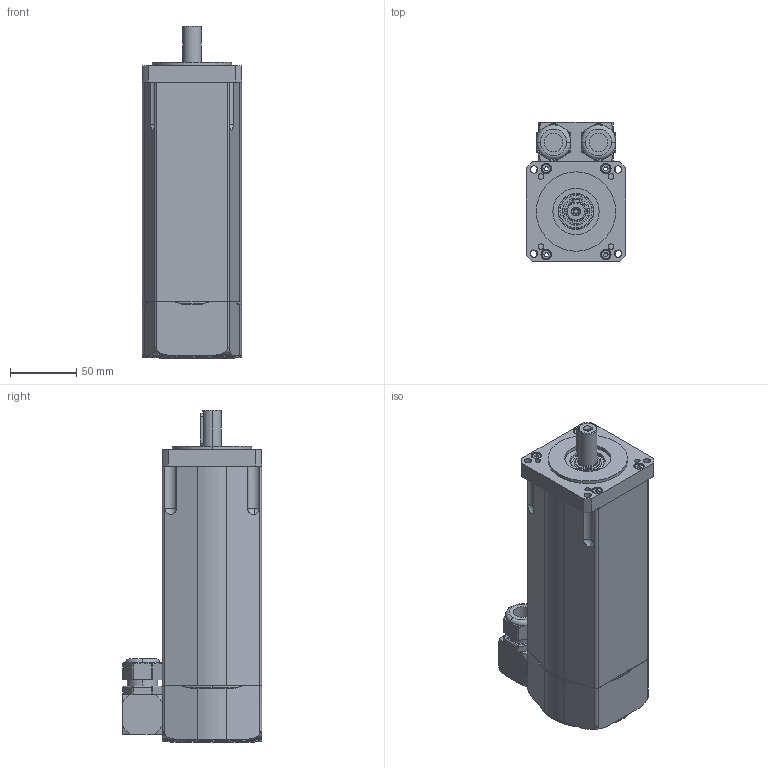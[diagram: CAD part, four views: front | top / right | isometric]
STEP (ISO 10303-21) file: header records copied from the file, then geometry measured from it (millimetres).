
FILE_DESCRIPTION (( 'STEP AP203' ), '1' );
FILE_NAME ('SSAX_75_L_SF_Albero Ø14 .STEP', '2017-06-01T13:25:25', ( 'Tecnico motori' ), ( '' ), 'SwSTEP 2.0', 'SolidWorks 2010', '' );
FILE_SCHEMA (( 'CONFIG_CONTROL_DESIGN' ));
Length unit declared in the file: millimetre
Products named in the file (1): SSAX_75_L_SF_Albero Ø14 
Bounding box: 75 x 105.3 x 251.1 mm (x, y, z)
Surface area: 95701.8 mm2 (no closed solid volume)
Topology: 0 solids, 25 shells, 405 faces, 1154 edges, 744 vertices
Faces by surface type: cylinder 155, plane 144, cone 32, torus 30, sphere 24, bspline 20
Entity records: 14139 total; most frequent: CARTESIAN_POINT 3594, DIRECTION 2329, ORIENTED_EDGE 1971, EDGE_CURVE 1126, AXIS2_PLACEMENT_3D 909, VERTEX_POINT 740, CIRCLE 523, LINE 511
